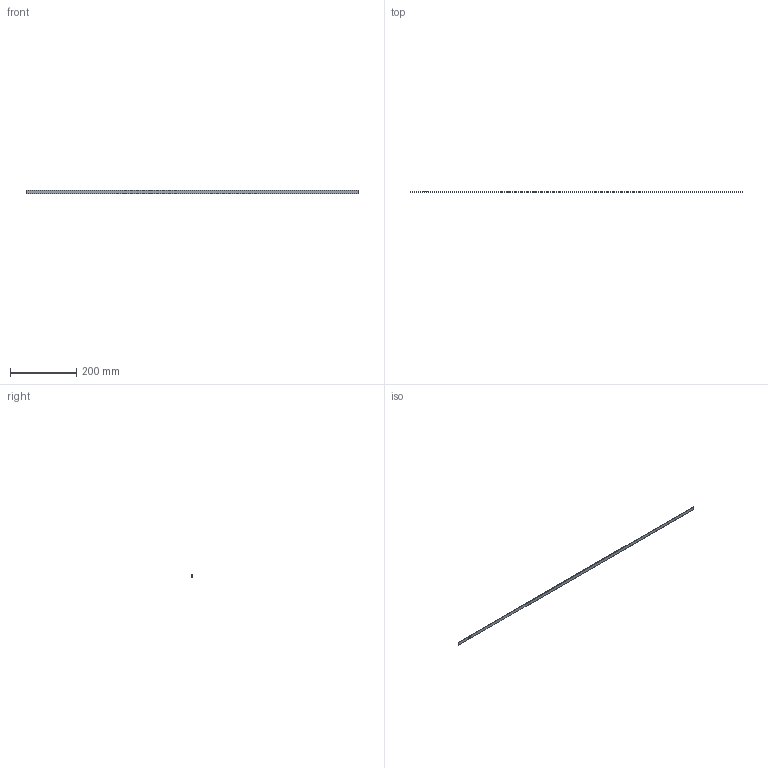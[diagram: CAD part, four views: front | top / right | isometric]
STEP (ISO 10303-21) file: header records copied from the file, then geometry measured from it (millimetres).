
FILE_DESCRIPTION (( 'STEP AP214' ), '1' );
FILE_NAME ('MS10.STEP', '2021-10-22T12:48:20', ( '' ), ( '' ), 'SwSTEP 2.0', 'SolidWorks 2020', '' );
FILE_SCHEMA (( 'AUTOMOTIVE_DESIGN' ));
Length unit declared in the file: millimetre
Products named in the file (4): MS10; Carrier; Magnetic scale^MS10; VHB^MS10
Assembly tree (3 placements, depth 2):
  MS10
    Carrier
    Magnetic scale^MS10
    VHB^MS10
Bounding box: 1000 x 1.43 x 10 mm (x, y, z)
Volume: 14265.1 mm3; surface area: 62317.6 mm2
Topology: 3 solids, 3 shells, 71 faces, 177 edges, 118 vertices
Faces by surface type: plane 53, cylinder 13, bspline 5
Entity records: 2389 total; most frequent: CARTESIAN_POINT 545, ORIENTED_EDGE 354, DIRECTION 337, EDGE_CURVE 177, VECTOR 141, LINE 141, VERTEX_POINT 118, AXIS2_PLACEMENT_3D 98
